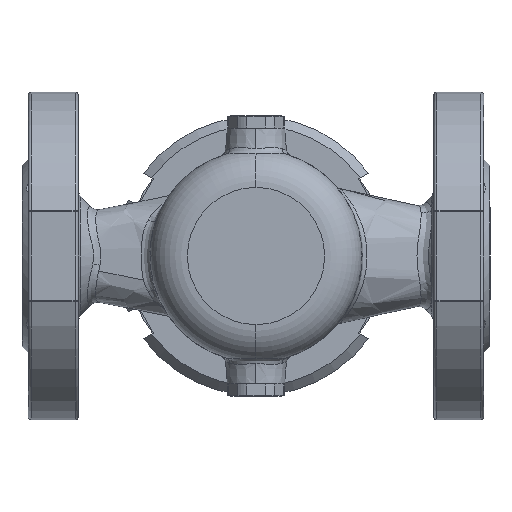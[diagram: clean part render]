
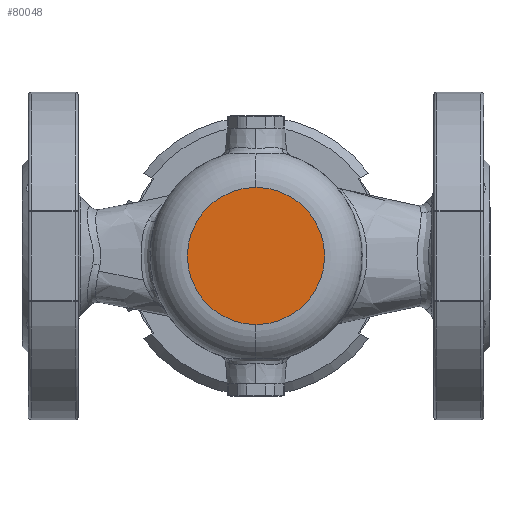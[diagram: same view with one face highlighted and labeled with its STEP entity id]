
A CAD part, front view. The second image highlights one B-rep face of the part: STEP entity #80048.
In plain terms, the highlighted planar face has unit normal (0, -1, 0).
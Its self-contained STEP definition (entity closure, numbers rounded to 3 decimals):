
#76 = AXIS2_PLACEMENT_3D ( 'NONE', #12526, #12117, #19075 ) ;
#516 = DIRECTION ( 'NONE',  ( 0., 1., 0. ) ) ;
#1229 = CIRCLE ( 'NONE', #81352, 22. ) ;
#12117 = DIRECTION ( 'NONE',  ( 0., -1., 0. ) ) ;
#12526 = CARTESIAN_POINT ( 'NONE',  ( -22., -45., 0. ) ) ;
#19075 = DIRECTION ( 'NONE',  ( 0., 0., -1. ) ) ;
#19083 = DIRECTION ( 'NONE',  ( 0., 0., 1. ) ) ;
#20007 = EDGE_LOOP ( 'NONE', ( #39705, #53875 ) ) ;
#22405 = VERTEX_POINT ( 'NONE', #82397 ) ;
#26169 = DIRECTION ( 'NONE',  ( 0., 0., 1. ) ) ;
#26399 = CIRCLE ( 'NONE', #52668, 22. ) ;
#31901 = EDGE_CURVE ( 'NONE', #81898, #22405, #26399, .T. ) ;
#38116 = FACE_OUTER_BOUND ( 'NONE', #20007, .T. ) ;
#39414 = CARTESIAN_POINT ( 'NONE',  ( 0., -45., 0. ) ) ;
#39705 = ORIENTED_EDGE ( 'NONE', *, *, #31901, .F. ) ;
#52668 = AXIS2_PLACEMENT_3D ( 'NONE', #59904, #516, #26169 ) ;
#53875 = ORIENTED_EDGE ( 'NONE', *, *, #77786, .F. ) ;
#59904 = CARTESIAN_POINT ( 'NONE',  ( 0., -45., 0. ) ) ;
#67608 = CARTESIAN_POINT ( 'NONE',  ( 0., -45., 22. ) ) ;
#71895 = DIRECTION ( 'NONE',  ( 0., 1., 0. ) ) ;
#76243 = PLANE ( 'NONE',  #76 ) ;
#77786 = EDGE_CURVE ( 'NONE', #22405, #81898, #1229, .T. ) ;
#80048 = ADVANCED_FACE ( 'NONE', ( #38116 ), #76243, .T. ) ;
#81352 = AXIS2_PLACEMENT_3D ( 'NONE', #39414, #71895, #19083 ) ;
#81898 = VERTEX_POINT ( 'NONE', #67608 ) ;
#82397 = CARTESIAN_POINT ( 'NONE',  ( 0., -45., -22. ) ) ;
